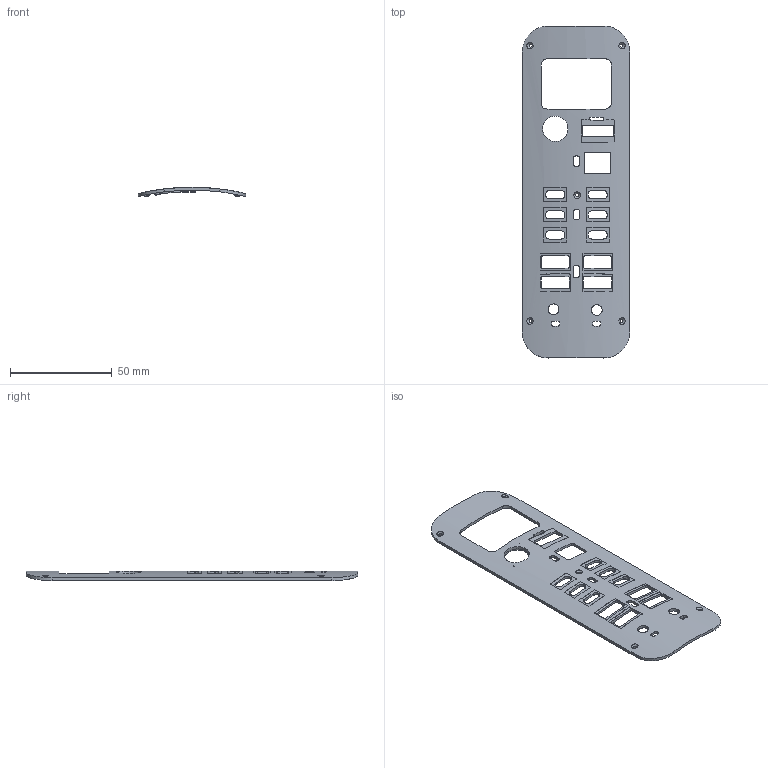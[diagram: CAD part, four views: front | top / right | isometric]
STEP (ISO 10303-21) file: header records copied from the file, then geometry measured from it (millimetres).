
FILE_DESCRIPTION(('Open CASCADE Model'),'2;1');
FILE_NAME('Open CASCADE Shape Model','2026-10-04T15:56:32',('Author'),( 'Open CASCADE'),'Open CASCADE STEP processor 7.9','Open CASCADE 7.9' ,'Unknown');
FILE_SCHEMA(('AUTOMOTIVE_DESIGN { 1 0 10303 214 1 1 1 1 }'));
Length unit declared in the file: millimetre
Products named in the file (1): Open CASCADE STEP translator 7.9 1
Bounding box: 52.7 x 163.1 x 4.7 mm (x, y, z)
Volume: 9328.3 mm3; surface area: 15017 mm2
Topology: 1 solids, 1 shells, 297 faces, 820 edges, 544 vertices
Faces by surface type: cylinder 152, plane 131, cone 14
Full cylindrical faces by diameter (mm): 1.1 x2, 1.8 x5, 2.6 x1, 2.8 x4, 5.3 x2, 12.4 x2
Entity records: 32284 total; most frequent: CARTESIAN_POINT 17313, DIRECTION 2319, ORIENTED_EDGE 1640, PCURVE 1640, DEFINITIONAL_REPRESENTATION 1640, LINE 1168, VECTOR 1168, B_SPLINE_CURVE_WITH_KNOTS 884
